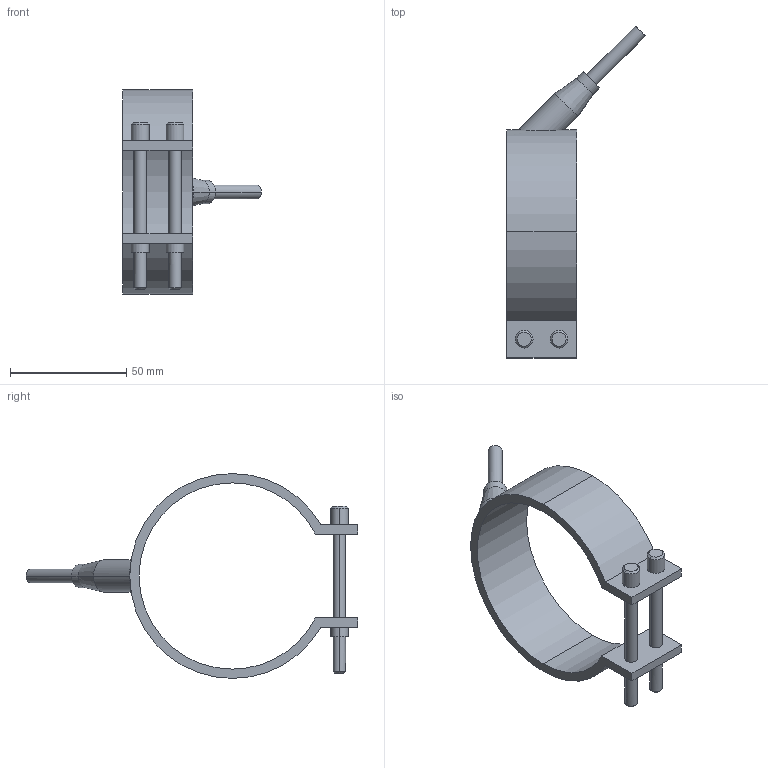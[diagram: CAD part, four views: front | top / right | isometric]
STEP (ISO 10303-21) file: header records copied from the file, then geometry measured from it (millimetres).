
FILE_DESCRIPTION(('CATIA V5 STEP Exchange'),'2;1');
FILE_NAME('C:\Users\Utente\Desktop\IO LAVORO\3D X SITO CF\X SITO\PLASTICA\RF1\29080030.stp','2021-03-29T18:10:56+00:00',('none'),('none'),'CATIA Version 5 Release 20 GA (IN-10)','CATIA V5 STEP AP203','none');
FILE_SCHEMA(('CONFIG_CONTROL_DESIGN'));
Length unit declared in the file: millimetre
Products named in the file (1): 29080030
Bounding box: 59.55 x 142.55 x 88 mm (x, y, z)
Volume: 38943 mm3; surface area: 21514.8 mm2
Topology: 1 solids, 1 shells, 54 faces, 123 edges, 79 vertices
Faces by surface type: cylinder 28, plane 16, cone 10
Entity records: 1740 total; most frequent: CARTESIAN_POINT 510, ORIENTED_EDGE 246, DIRECTION 212, EDGE_CURVE 123, AXIS2_PLACEMENT_3D 105, VERTEX_POINT 79, EDGE_LOOP 66, VECTOR 56
